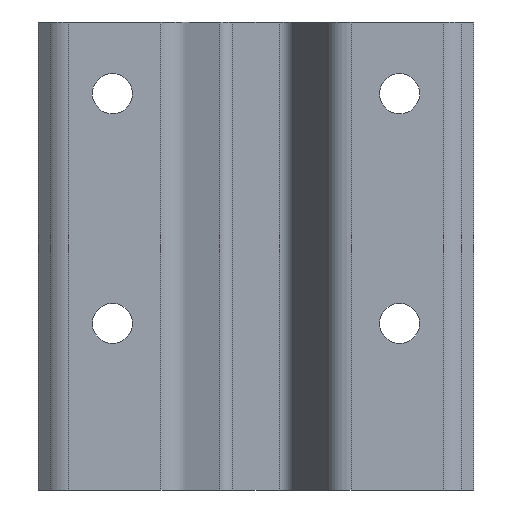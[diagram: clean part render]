
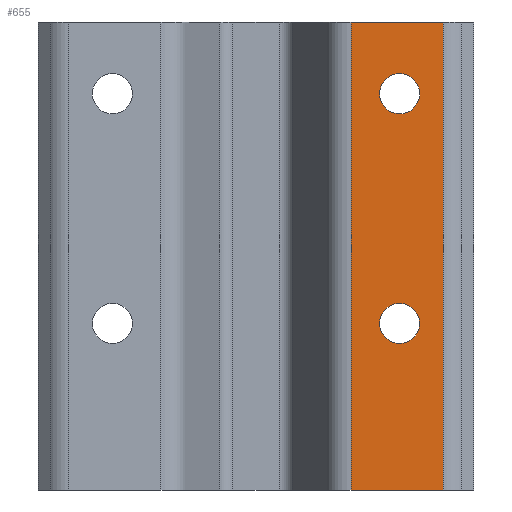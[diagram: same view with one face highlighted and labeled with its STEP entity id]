
A CAD part, front view. The second image highlights one B-rep face of the part: STEP entity #655.
In plain terms, the highlighted planar face has unit normal (0, -1, 0).
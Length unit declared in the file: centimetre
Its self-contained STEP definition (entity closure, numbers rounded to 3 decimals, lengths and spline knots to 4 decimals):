
#18=FACE_BOUND('',#88,.T.);
#19=FACE_BOUND('',#89,.T.);
#29=PLANE('',#701);
#51=FACE_OUTER_BOUND('',#87,.T.);
#87=EDGE_LOOP('',(#476,#477,#478,#479));
#88=EDGE_LOOP('',(#480));
#89=EDGE_LOOP('',(#481));
#128=CIRCLE('',#702,0.7);
#129=CIRCLE('',#703,0.7);
#169=LINE('',#1005,#233);
#170=LINE('',#1011,#234);
#171=LINE('',#1012,#235);
#172=LINE('',#1013,#236);
#233=VECTOR('',#803,0.1);
#234=VECTOR('',#810,0.1);
#235=VECTOR('',#811,0.1);
#236=VECTOR('',#812,0.1);
#298=VERTEX_POINT('',#1003);
#299=VERTEX_POINT('',#1004);
#300=VERTEX_POINT('',#1009);
#301=VERTEX_POINT('',#1010);
#302=VERTEX_POINT('',#1014);
#303=VERTEX_POINT('',#1016);
#369=EDGE_CURVE('',#298,#299,#169,.T.);
#372=EDGE_CURVE('',#300,#301,#170,.T.);
#373=EDGE_CURVE('',#300,#298,#171,.T.);
#374=EDGE_CURVE('',#299,#301,#172,.T.);
#375=EDGE_CURVE('',#302,#302,#128,.T.);
#376=EDGE_CURVE('',#303,#303,#129,.T.);
#476=ORIENTED_EDGE('',*,*,#372,.F.);
#477=ORIENTED_EDGE('',*,*,#373,.T.);
#478=ORIENTED_EDGE('',*,*,#369,.T.);
#479=ORIENTED_EDGE('',*,*,#374,.T.);
#480=ORIENTED_EDGE('',*,*,#375,.T.);
#481=ORIENTED_EDGE('',*,*,#376,.T.);
#655=ADVANCED_FACE('',(#51,#18,#19),#29,.T.);
#701=AXIS2_PLACEMENT_3D('',#1008,#808,#809);
#702=AXIS2_PLACEMENT_3D('',#1015,#813,#814);
#703=AXIS2_PLACEMENT_3D('',#1017,#815,#816);
#803=DIRECTION('',(0.,0.,1.));
#808=DIRECTION('center_axis',(0.,-1.,0.));
#809=DIRECTION('ref_axis',(1.,0.,0.));
#810=DIRECTION('',(0.,0.,1.));
#811=DIRECTION('',(1.,0.,0.));
#812=DIRECTION('',(-1.,0.,0.));
#813=DIRECTION('center_axis',(0.,1.,0.));
#814=DIRECTION('ref_axis',(1.,0.,0.));
#815=DIRECTION('center_axis',(0.,1.,0.));
#816=DIRECTION('ref_axis',(1.,0.,0.));
#1003=CARTESIAN_POINT('',(-19.4706,35.6396,0.));
#1004=CARTESIAN_POINT('',(-19.4706,35.6396,16.3));
#1005=CARTESIAN_POINT('',(-19.4706,35.6396,0.));
#1008=CARTESIAN_POINT('Origin',(-20.9958,35.6396,4.7));
#1009=CARTESIAN_POINT('',(-22.685,35.6396,0.));
#1010=CARTESIAN_POINT('',(-22.685,35.6396,16.3));
#1011=CARTESIAN_POINT('',(-22.685,35.6396,0.));
#1012=CARTESIAN_POINT('',(-22.685,35.6396,0.));
#1013=CARTESIAN_POINT('',(-22.685,35.6396,16.3));
#1014=CARTESIAN_POINT('',(-21.6958,35.6396,5.8));
#1015=CARTESIAN_POINT('Origin',(-20.9958,35.6396,5.8));
#1016=CARTESIAN_POINT('',(-21.6958,35.6396,13.8));
#1017=CARTESIAN_POINT('Origin',(-20.9958,35.6396,13.8));
